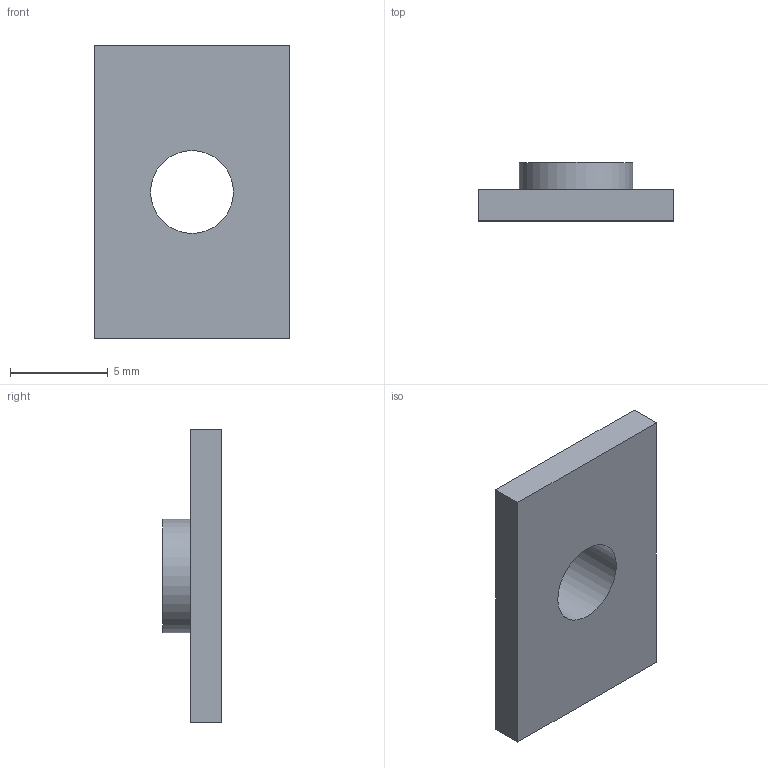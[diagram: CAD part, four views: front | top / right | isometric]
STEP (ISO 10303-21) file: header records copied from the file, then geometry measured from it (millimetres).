
FILE_DESCRIPTION(/* description */ (''),/* implementation_level */ '2;1');
FILE_NAME(/* name */ 'M5 20 Series Flat Nut - T-V-Slot - Zinc Plated v3.step',/* time_stamp */ '2024-07-24T02:17:41+03:00',/* author */ (''),/* organization */ (''),/* preprocessor_version */ 'ST-DEVELOPER v20',/* originating_system */ 'Autodesk Translation Framework v13.14.0.145',/* authorisation */ '');
FILE_SCHEMA (('AUTOMOTIVE_DESIGN { 1 0 10303 214 3 1 1 }'));
Length unit declared in the file: millimetre
Products named in the file (1): M5 20 Series Flat Nut - T/V-Slot - Zinc Plated
Bounding box: 10 x 3 x 15 mm (x, y, z)
Volume: 234.8 mm3; surface area: 417.3 mm2
Topology: 1 solids, 1 shells, 9 faces, 18 edges, 12 vertices
Faces by surface type: plane 7, cylinder 2
Full cylindrical faces by diameter (mm): 4.234 x1, 5.8 x1
Entity records: 273 total; most frequent: DIRECTION 42, CARTESIAN_POINT 40, ORIENTED_EDGE 36, EDGE_CURVE 18, LINE 14, VECTOR 14, AXIS2_PLACEMENT_3D 14, EDGE_LOOP 12
